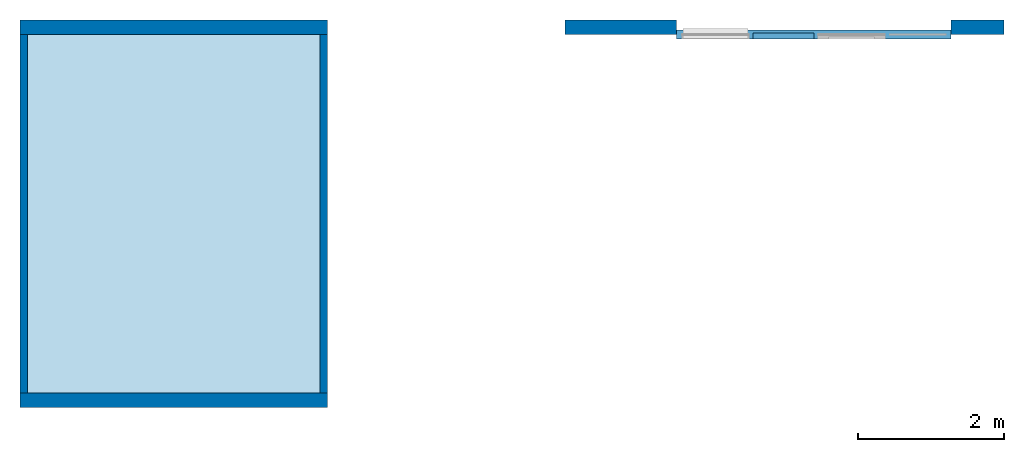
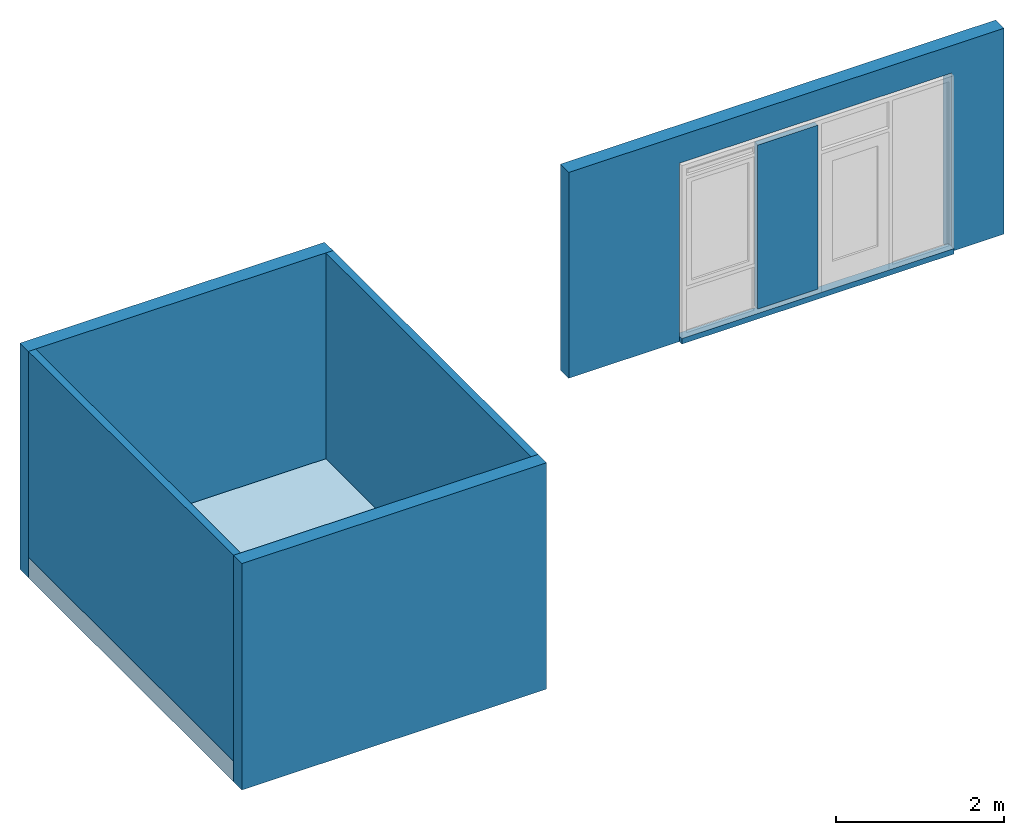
# One storey, part 1 of 4: 5 walls, 1 member, 1 plate, 1 slab, 1 opening, 1 element without a shape of its own.
"""IFC4 building model written with IfcOpenShell, lengths in millimetres."""

from ifc_helpers import new_model, entity, si_unit, converted_unit, derived_unit, direction, frame, origin, place, context, subcontext, project, spatial, indexed_curve, outline, extrude, polygons, source, transform, mapped, material, constituent, constituent_set, type_object, type_shapes, element, aggregate, save


model = new_model("IFC4")

# Units and contexts
model_context = context("Model", 3, precision=0.01, world=origin(), true_north=direction((6.123031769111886e-17, 1.0)))
plan_context = context("Plan", 3, precision=0.01, world=origin(), true_north=direction((6.123031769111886e-17, 1.0)))
body_context = subcontext(model_context, "Body", "Model", "MODEL_VIEW")
ifc_project = project(units=[si_unit("LENGTHUNIT", "METRE", prefix="MILLI"), converted_unit("PLANEANGLEUNIT", "DEGREE", entity("IfcPlaneAngleMeasure", 0.017453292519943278), si_unit("PLANEANGLEUNIT", "RADIAN"), dimensions=[0, 0, 0, 0, 0, 0, 0]), si_unit("AREAUNIT", "SQUARE_METRE"), si_unit("VOLUMEUNIT", "CUBIC_METRE"), si_unit("POWERUNIT", "WATT"), derived_unit("USERDEFINED", [(si_unit("MASSUNIT", "GRAM", prefix="KILO"), 1), (si_unit("TIMEUNIT", "SECOND"), -3)])], contexts=[model_context, plan_context])

# Site, building, storey
site_placement = place(None, origin())
site = spatial("IfcSite", under=ifc_project, at=site_placement, Name="[ComplexCode]", CompositionType="ELEMENT")
building_placement = place(site_placement, origin())
building = spatial("IfcBuilding", under=site, at=building_placement, Name="[BouwwerkCode]", CompositionType="ELEMENT")
storey_placement = place(building_placement, origin())
storey = spatial("IfcBuildingStorey", under=building, at=storey_placement, Name="00", CompositionType="ELEMENT", Elevation=0.0)

# Assembly, member, plate
element_assembly_type = type_object("IfcElementAssemblyType", Name="Assemblies : Generic Models Assembly : kozijncombinatie_buiten", PredefinedType="NOTDEFINED")
assembly_placement = place(storey_placement, origin())
assembly = element("IfcElementAssembly", 1, at=assembly_placement, inside=storey, type_object=element_assembly_type, Name="Assemblies : Generic Models Assembly : kozijncombinatie_buiten", ObjectType="kozijncombinatie", AssemblyPlace="NOTDEFINED", PredefinedType="NOTDEFINED")
ifc_material_1 = material(Name="hout", Category="Hout")
member_type = type_object("IfcMemberType", Name="Generic Models : RBS_3-_GM_pui_onderdorpel_SH : buiten", PredefinedType="USERDEFINED", material=ifc_material_1)
shared_shape_1 = source(origin(), body_context, "Body", "SweptSolid", [
    extrude(outline(indexed_curve([(-1874.9999999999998, -59.999999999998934), (1874.9999999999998, -59.999999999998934), (1874.9999999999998, 59.999999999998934), (-1874.9999999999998, 59.999999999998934), (-1874.9999999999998, -59.999999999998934)], self_intersect=False)), frame((0.0, 0.0, 0.0), z_axis=(0.0, 0.0, 1.0), x_axis=(-1.0, 0.0, 0.0)), (0.0, 0.0, 1.0), 80.00000000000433),
])
type_shapes(member_type, [shared_shape_1])
member_placement = place(assembly_placement, frame((13750.0, 7400.0, 0.0), z_axis=(0.0, 0.0, 1.0), x_axis=(-1.0, 0.0, 0.0)))
member = element("IfcMember", 2, at=member_placement, type_object=member_type, material=ifc_material_1, Name="Generic Models : RBS_3-_GM_pui_onderdorpel_SH : buiten", ObjectType="dorpel", PredefinedType="USERDEFINED", context=body_context, shape_type="MappedRepresentation", body=[
    mapped(shared_shape_1, transform((0.0, 0.0, 0.0), scale=1.0)),
])
ifc_material_2 = material(Name="hout", Category="Hout")
plate_type = type_object("IfcPlateType", Name="Windows : RBS_3-_WI_pui_paneel_SH : buiten", PredefinedType="USERDEFINED", material=ifc_material_2)
shared_shape_2 = source(origin(), body_context, "Body", "SweptSolid", [
    extrude(outline(indexed_curve([(-40.00000000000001, -415.0000000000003), (40.00000000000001, -415.0000000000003), (40.00000000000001, 415.0000000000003), (-40.00000000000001, 415.0000000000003), (-40.00000000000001, -415.0000000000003)], self_intersect=False)), frame((0.0, 0.0, 0.0), z_axis=(0.0, 0.0, 1.0), x_axis=(0.0, 1.0, 0.0)), (0.0, 0.0, 1.0), 2390.000000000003),
])
type_shapes(plate_type, [shared_shape_2])
plate_placement = place(assembly_placement, frame((13335.0, 7380.0, 145.0), z_axis=(0.0, 0.0, 1.0), x_axis=(-1.0, 0.0, 0.0)))
plate = element("IfcPlate", 3, at=plate_placement, type_object=plate_type, material=ifc_material_2, Name="Windows : RBS_3-_WI_pui_paneel_SH : buiten", ObjectType="paneel", PredefinedType="USERDEFINED", context=body_context, shape_type="MappedRepresentation", body=[
    mapped(shared_shape_2, transform((0.0, 0.0, 0.0), scale=1.0)),
])
aggregate(assembly, [plate, member])

# Slab
ifc_material_3 = material(Name="beton")
ifc_constituent_1 = constituent(ifc_material_3, Name="beton")
ifc_constituent_2 = constituent(ifc_material_3, Name="beton (2)")
ifc_constituent_set = constituent_set(constituents=[ifc_constituent_1, ifc_constituent_2], Name="Floor:RBS_23_FL_vloer_binnen_d=300")
slab_type = type_object("IfcSlabType", Name="Floors : Floor : RBS_23_FL_vloer_binnen_d=300", PredefinedType="FLOOR", material=ifc_constituent_set)
slab_placement = place(storey_placement, origin())
element("IfcSlab", 4, at=slab_placement, inside=storey, type_object=slab_type, material=ifc_constituent_set, Name="Floors : Floor : RBS_23_FL_vloer_binnen_d=300", ObjectType="vloer", PredefinedType="FLOOR", context=body_context, shape_type="SweptSolid", body=[
    extrude(outline(indexed_curve([(-2549.999999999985, -2100.00000000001), (2549.9999999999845, -2100.00000000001), (2549.9999999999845, 2100.00000000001), (-2549.9999999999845, 2100.00000000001), (-2549.999999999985, -2100.00000000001)], self_intersect=False)), frame((5000.0, 4950.0, -50.0), z_axis=(0.0, 0.0, 1.0), x_axis=(0.0, 1.0, 0.0)), (0.0, 0.0, 1.0), 50.0),
    extrude(outline(indexed_curve([(-2549.999999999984, -2100.00000000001), (2549.9999999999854, -2100.00000000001), (2549.9999999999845, 2100.00000000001), (-2549.999999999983, 2100.00000000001), (-2549.999999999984, -2100.00000000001)], self_intersect=False)), frame((5000.0, 4950.0, -300.0), z_axis=(0.0, 0.0, 1.0), x_axis=(0.0, 1.0, 0.0)), (0.0, 0.0, 1.0), 250.00000000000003),
])

# Wall, opening
wall_type_1 = type_object("IfcWallType", Name="Walls : Basic Wall : RBS_21_WA_wand_buiten_d=200", PredefinedType="STANDARD")
wall_1_placement = place(storey_placement, frame((16350.0, 7500.0, 0.0), z_axis=(0.0, 0.0, 1.0), x_axis=(-1.0, 0.0, 0.0)))
wall_1 = element("IfcWall", 5, at=wall_1_placement, inside=storey, type_object=wall_type_1, material=ifc_material_3, Name="Walls : Basic Wall : RBS_21_WA_wand_buiten_d=200", ObjectType="wand", PredefinedType="NOTDEFINED", context=body_context, shape_type="Tessellation", body=[
    polygons([(4474.999999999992, -100.0000000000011, 2600.000000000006), (4474.999999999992, -100.0000000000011, 0.0), (6000.0, -100.0, 0.0), (6000.0, -100.0, 3000.0), (2.641139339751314e-13, -99.99999999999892, 3000.0), (2.641139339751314e-13, -99.99999999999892, 0.0), (725.0000000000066, -100.0000000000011, 0.0), (725.0000000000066, -100.0000000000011, 2600.000000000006), (6000.0, 100.0000000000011, 0.0), (4474.999999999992, 99.99999999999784, 0.0), (4474.999999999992, 99.99999999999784, 2600.000000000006), (725.0000000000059, 99.99999999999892, 2600.000000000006), (725.0000000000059, 99.99999999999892, 0.0), (-3.697595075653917e-13, 100.0, 0.0), (-3.697595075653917e-13, 100.0, 3000.0), (6000.0, 100.0000000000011, 3000.0)], [[[1, 2, 3, 4, 5, 6, 7, 8]], [[9, 10, 11, 12, 13, 14, 15, 16]], [[7, 6, 14, 13]], [[4, 3, 9, 16]], [[5, 4, 16, 15]], [[6, 5, 15, 14]], [[13, 12, 8, 7]], [[11, 10, 2, 1]], [[12, 11, 1, 8]], [[3, 2, 10, 9]]], closed=True),
])
opening_placement = place(wall_1_placement, origin())
element("IfcOpeningElement", 6, at=opening_placement, cuts=wall_1, Name="Walls : Basic Wall : RBS_21_WA_wand_buiten_d=200", PredefinedType="OPENING", context=body_context, shape_type="SweptSolid", body=[
    extrude(outline(indexed_curve([(-1874.9999999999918, -1300.000000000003), (1874.9999999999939, -1300.000000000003), (1874.9999999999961, 1300.000000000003), (-1874.9999999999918, 1300.000000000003), (-1874.9999999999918, -1300.000000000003)], self_intersect=False)), frame((2600.0, -1624.0, 1300.0), z_axis=(0.0, 1.0, 0.0), x_axis=(1.0, 0.0, 0.0)), (0.0, 0.0, 1.0), 3048.0),
])

# Walls
wall_2_placement = place(storey_placement, frame((2900.0, 7500.0, -300.0)))
element("IfcWall", 7, at=wall_2_placement, inside=storey, type_object=wall_type_1, material=ifc_material_3, Name="Walls : Basic Wall : RBS_21_WA_wand_buiten_d=200", ObjectType="wand", PredefinedType="NOTDEFINED", context=body_context, shape_type="Tessellation", body=[
    polygons([(9.574130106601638e-12, -99.99999999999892, 0.0), (4199.999999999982, -100.0, 0.0), (4199.999999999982, -100.0, 3300.0), (3.076927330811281e-12, -99.99999999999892, 3300.0), (9.481690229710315e-12, 100.0, 0.0), (9.481690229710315e-12, 100.0, 3300.0), (4199.999999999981, 100.0000000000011, 3300.0), (4199.999999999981, 100.0000000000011, 0.0), (4199.999999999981, 1.5160139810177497e-11, 3300.0), (9.798626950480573e-12, 1.0828671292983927e-12, 3300.0)], [[[1, 2, 3, 4]], [[5, 6, 7, 8]], [[2, 1, 5, 8]], [[3, 2, 8, 7, 9]], [[1, 4, 10, 6, 5]], [[9, 7, 6, 10]], [[4, 3, 9, 10]]], closed=True),
])
wall_3_placement = place(storey_placement, frame((7100.0, 2400.0, -300.0), z_axis=(0.0, 0.0, 1.0), x_axis=(-1.0, 0.0, 0.0)))
element("IfcWall", 8, at=wall_3_placement, inside=storey, type_object=wall_type_1, material=ifc_material_3, Name="Walls : Basic Wall : RBS_21_WA_wand_buiten_d=200", ObjectType="wand", PredefinedType="NOTDEFINED", context=body_context, shape_type="Tessellation", body=[
    polygons([(3.4334811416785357e-13, -100.00000000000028, 0.0), (4199.9999999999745, -100.0, 0.0), (4199.9999999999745, -100.0, 3300.0), (3.4334811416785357e-13, -100.00000000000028, 3300.0), (-2.905253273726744e-13, 100.0, 0.0), (-2.905253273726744e-13, 100.00000000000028, 3300.0), (4199.999999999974, 99.99999999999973, 3300.0), (4199.999999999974, 99.99999999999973, 0.0)], [[[1, 2, 3, 4]], [[5, 6, 7, 8]], [[2, 1, 5, 8]], [[3, 2, 8, 7]], [[1, 4, 6, 5]], [[4, 3, 7, 6]]], closed=True),
])
ifc_material_4 = material(Name="<Unnamed>")
wall_type_2 = type_object("IfcWallType", Name="Walls : Basic Wall : RBS_22_WA_wand_binnen_d=100", PredefinedType="STANDARD")
wall_4_placement = place(storey_placement, frame((7050.0, 7400.0, 0.0), z_axis=(0.0, 0.0, 1.0), x_axis=(0.0, -1.0, 0.0)))
element("IfcWall", 9, at=wall_4_placement, inside=storey, type_object=wall_type_2, material=ifc_material_4, Name="Walls : Basic Wall : RBS_22_WA_wand_binnen_d=100", ObjectType="wand", PredefinedType="NOTDEFINED", context=body_context, shape_type="Tessellation", body=[
    polygons([(1.0828671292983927e-12, -50.000000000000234, 0.0), (4899.9999999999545, -49.99999999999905, 0.0), (4899.999999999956, -49.99999999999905, 3000.0), (1.0828671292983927e-12, -50.000000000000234, 3000.0), (1.0828671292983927e-12, 49.99999999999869, 0.0), (1.0828671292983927e-12, 50.00000000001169, 3000.0), (4899.999999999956, 49.99999999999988, 3000.0), (4899.999999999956, 49.99999999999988, 0.0)], [[[1, 2, 3, 4]], [[5, 6, 7, 8]], [[2, 1, 5, 8]], [[1, 4, 6, 5]], [[3, 2, 8, 7]], [[4, 3, 7, 6]]], closed=True),
])
wall_5_placement = place(storey_placement, frame((2950.0, 2500.0, 0.0), z_axis=(0.0, 0.0, 1.0), x_axis=(0.0, 1.0, 0.0)))
element("IfcWall", 10, at=wall_5_placement, inside=storey, type_object=wall_type_2, material=ifc_material_4, Name="Walls : Basic Wall : RBS_22_WA_wand_binnen_d=100", ObjectType="wand", PredefinedType="NOTDEFINED", context=body_context, shape_type="Tessellation", body=[
    polygons([(5.414335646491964e-13, -50.00000000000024, 0.0), (4899.999999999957, -50.000000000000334, 0.0), (4899.999999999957, -50.000000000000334, 3000.0), (0.0, -50.00000000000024, 3000.0), (0.0, 49.999999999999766, 0.0), (5.414335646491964e-13, 50.000000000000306, 3000.0), (4899.999999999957, 49.99999999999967, 3000.0), (4899.999999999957, 49.99999999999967, 0.0)], [[[1, 2, 3, 4]], [[5, 6, 7, 8]], [[2, 1, 5, 8]], [[3, 2, 8, 7]], [[1, 4, 6, 5]], [[4, 3, 7, 6]]], closed=True),
])

save(model, "model.ifc")
